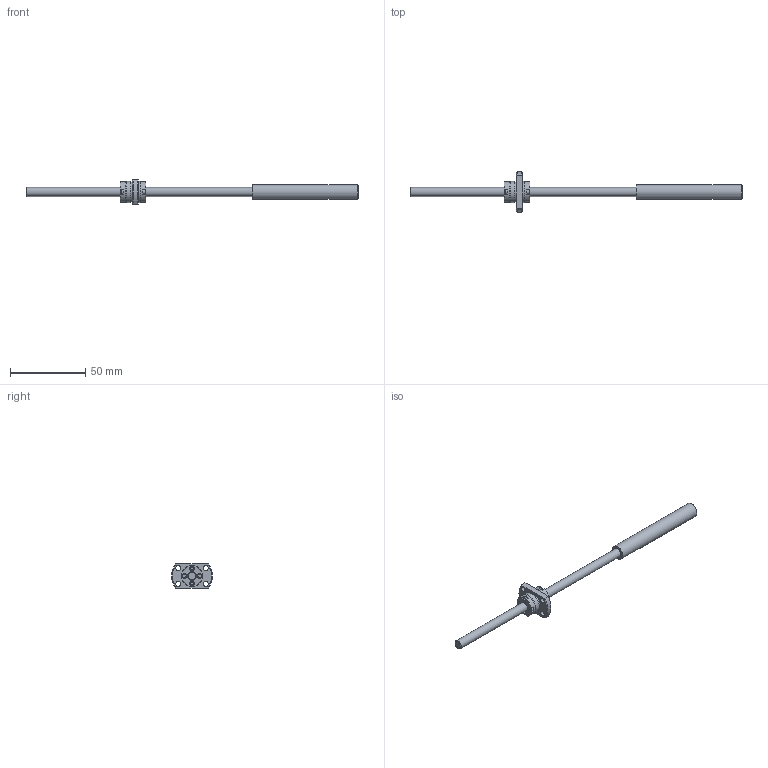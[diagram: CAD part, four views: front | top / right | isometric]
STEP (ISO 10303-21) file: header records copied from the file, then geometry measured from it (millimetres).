
FILE_DESCRIPTION(/* description */ ('STEP AP214'),/* implementation_level */ '2;1');
FILE_NAME(/* name */ 'SRT0606-146R220C7A0X(62.5None)',/* time_stamp */ '2026-08-04T17:56:02+02:00',/* author */ ('License CC BY-ND 4.0'),/* organization */ ('CADENAS'),/* preprocessor_version */ 'ST-DEVELOPER v20',/* originating_system */ 'PARTsolutions',/* authorisation */ ' ');
FILE_SCHEMA (('AUTOMOTIVE_DESIGN {1 0 10303 214 3 1 1}'));
Length unit declared in the file: millimetre
Products named in the file (3): SRT0606-146R220C7A0X(62.5None); SRT0606-146R220ACt7None21Shaft; SRT0606Nut
Assembly tree (2 placements, depth 2):
  SRT0606-146R220C7A0X(62.5None)
    SRT0606-146R220ACt7None21Shaft
    SRT0606Nut
Bounding box: 220 x 27 x 16 mm (x, y, z)
Volume: 12259.7 mm3; surface area: 7376.9 mm2
Topology: 2 solids, 2 shells, 138 faces, 334 edges, 222 vertices
Faces by surface type: plane 100, cylinder 30, cone 8
Full cylindrical faces by diameter (mm): 3 x8, 3.4 x4, 6 x2, 9.7 x1, 13.6 x1, 13.8 x2, 14 x2
Entity records: 3971 total; most frequent: CARTESIAN_POINT 689, DIRECTION 662, ORIENTED_EDGE 612, EDGE_CURVE 306, AXIS2_PLACEMENT_3D 223, VERTEX_POINT 218, LINE 216, VECTOR 216
